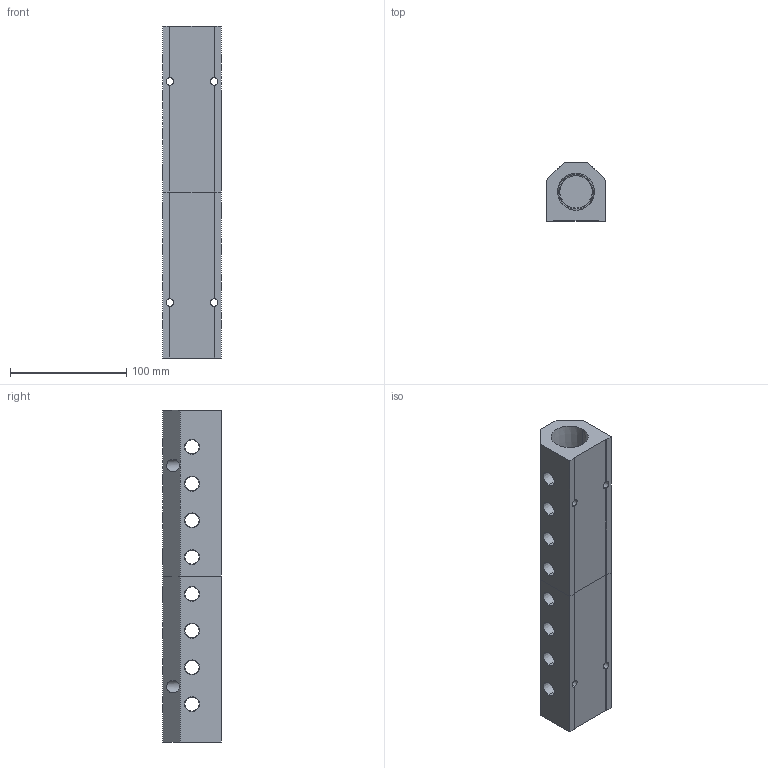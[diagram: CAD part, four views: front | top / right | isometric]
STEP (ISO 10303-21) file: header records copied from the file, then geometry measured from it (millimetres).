
FILE_DESCRIPTION (( 'STEP AP214' ), '1' );
FILE_NAME ('ALM8ACE-N4N16-286RB.STEP', '2023-11-02T06:15:13', ( '' ), ( '' ), 'SwSTEP 2.0', 'SolidWorks 2020', '' );
FILE_SCHEMA (( 'AUTOMOTIVE_DESIGN' ));
Length unit declared in the file: millimetre
Products named in the file (1): ALM8ACE-N4N16-286RB
Bounding box: 50.8 x 50.8 x 286 mm (x, y, z)
Volume: 440537 mm3; surface area: 96503.4 mm2
Topology: 2 solids, 2 shells, 397 faces, 1056 edges, 688 vertices
Faces by surface type: plane 235, bspline 82, cone 56, cylinder 24
Entity records: 22762 total; most frequent: CARTESIAN_POINT 9680, ORIENTED_EDGE 2112, DIRECTION 1556, EDGE_CURVE 1056, LINE 732, VECTOR 732, VERTEX_POINT 688, EDGE_LOOP 478
